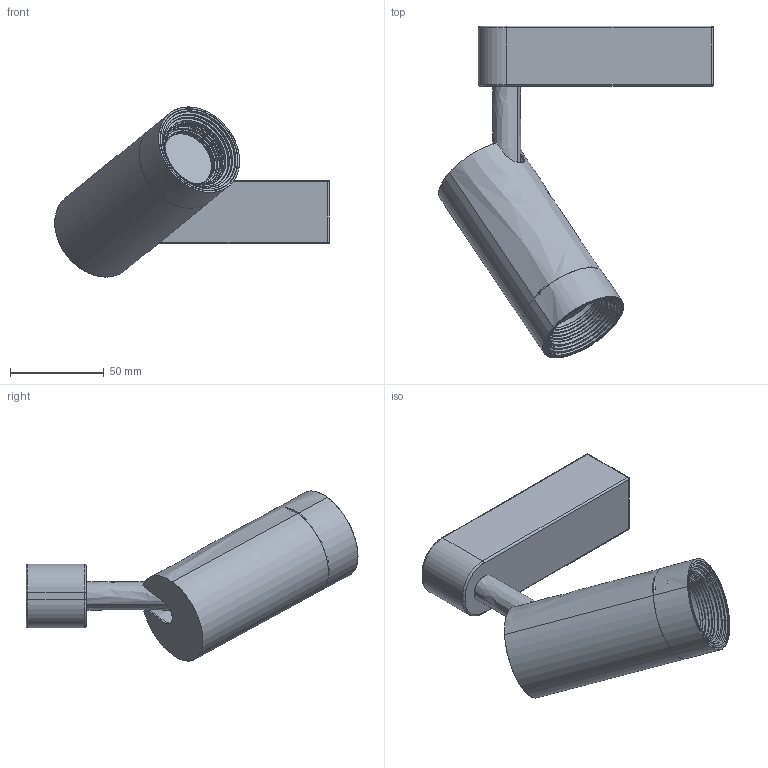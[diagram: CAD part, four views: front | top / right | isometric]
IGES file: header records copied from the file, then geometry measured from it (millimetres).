
Start section: SolidWorks IGES file using analytic representation for surfaces
Global section: file name: Z:\Modele 3D_WWW\_KOLEKCJE_WWW\PROFILE SYSTEM\PROFILE-IRIS-LED-12W-9000-9001-9002-9003\PROFILE-IRIS-LED-12W-9000-9001-9002-9003.IGS; native system: SolidWorks 2020; preprocessor: SolidWorks 2020; author: gabriela.tworek; date: 210304.072422; units: millimetre
Bounding box: 146.1 x 176.63 x 90.49 mm (x, y, z)
Surface area: 75136.6 mm2 (no closed solid volume)
Topology: 0 solids, 0 shells, 96 faces, 2480 edges, 2476 vertices
Faces by surface type: revolution 50, bspline 46
